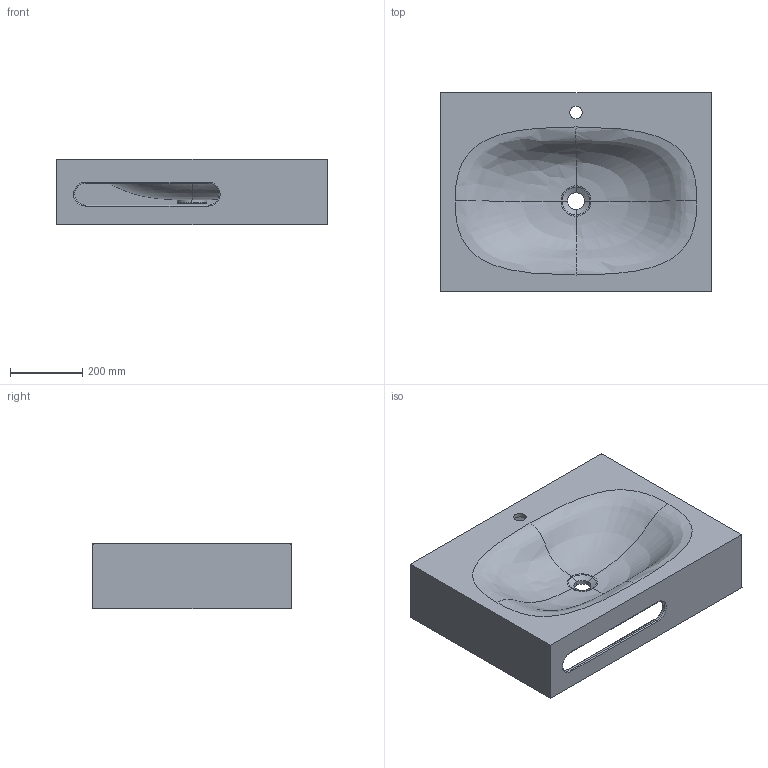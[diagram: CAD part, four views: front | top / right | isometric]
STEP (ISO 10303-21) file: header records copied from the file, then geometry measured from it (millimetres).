
FILE_DESCRIPTION (( 'STEP AP214' ), '1' );
FILE_NAME ('TRINITY-E 750.STEP', '2024-05-10T08:39:45', ( '' ), ( '' ), 'SwSTEP 2.0', 'SolidWorks 2021', '' );
FILE_SCHEMA (( 'AUTOMOTIVE_DESIGN' ));
Length unit declared in the file: millimetre
Products named in the file (7): CAD-00001827_750; TRINITY-E 750; CAD-00001811; CAD-00001817_750; CAD-00001810; CAD-00001812_750; CAD-00001815_750
Assembly tree (12 placements, depth 2):
  TRINITY-E 750
    CAD-00001827_750
    CAD-00001811  x2
    CAD-00001812_750
    CAD-00001817_750
    CAD-00001815_750
    CAD-00001810  x6
Bounding box: 750 x 550 x 180 mm (x, y, z)
Volume: 14500739.7 mm3; surface area: 2690048.5 mm2
Topology: 12 solids, 12 shells, 149 faces, 340 edges, 215 vertices
Faces by surface type: plane 86, bspline 32, cylinder 27, torus 4
Full cylindrical faces by diameter (mm): 11 x5, 12 x3, 35 x1
Entity records: 21575 total; most frequent: CARTESIAN_POINT 19367, ORIENTED_EDGE 396, DIRECTION 342, EDGE_CURVE 198, VERTEX_POINT 126, EDGE_LOOP 124, AXIS2_PLACEMENT_3D 118, LINE 106
